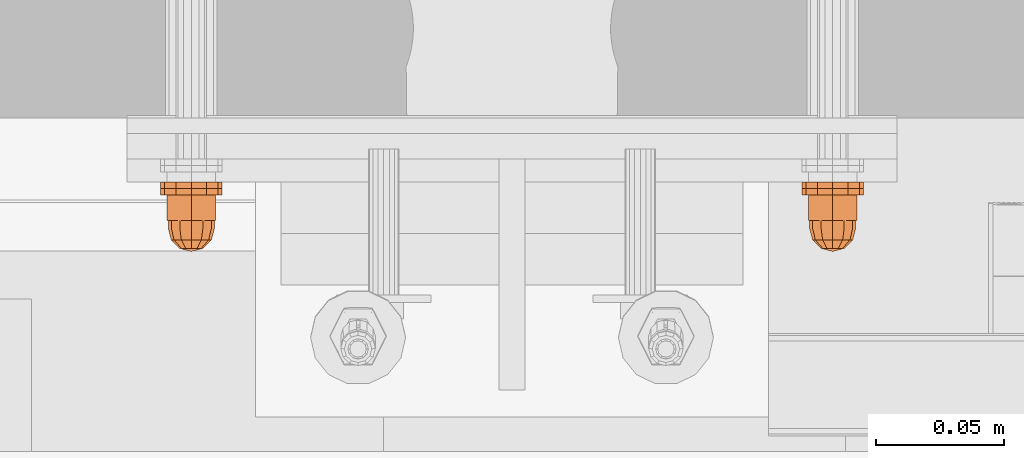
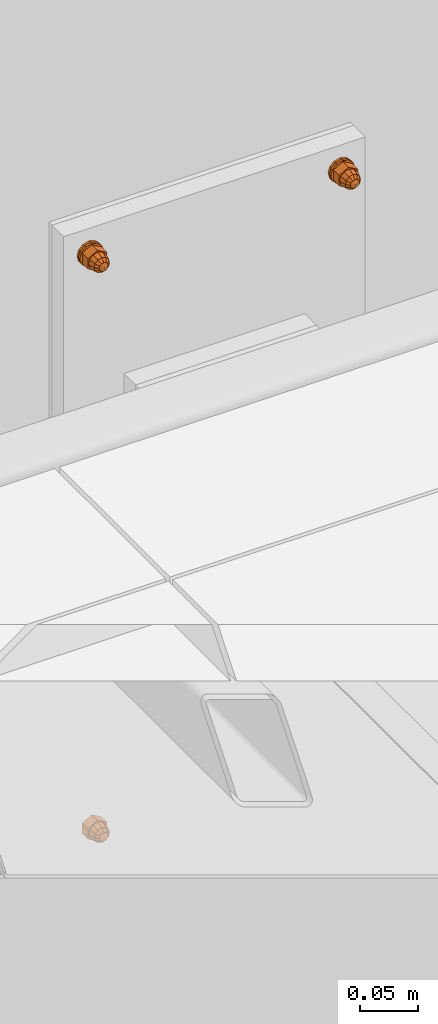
# One storey, part 151 of 162: 7 proxies.
"""IFC2X3 building model written with IfcOpenShell, lengths in millimetres."""

from ifc_helpers import new_model, entity, si_unit, converted_unit, origin_with_axes, place, context, project, spatial, faceted_brep, material, element, save


model = new_model("IFC2X3")

# Units and contexts
model_context = context("Model", 3, precision=1e-09, world=origin_with_axes())
ifc_project = project(units=[si_unit("LENGTHUNIT", "METRE", prefix="MILLI"), si_unit("AREAUNIT", "SQUARE_METRE"), si_unit("VOLUMEUNIT", "CUBIC_METRE"), converted_unit("PLANEANGLEUNIT", "DEGREE", entity("IfcPlaneAngleMeasure", 0.01745329), si_unit("PLANEANGLEUNIT", "RADIAN"), dimensions=[0, 0, 0, 0, 0, 0, 0])], contexts=[model_context])

# Site, building, storey
site_placement = place(None, origin_with_axes())
site = spatial("IfcSite", under=ifc_project, at=site_placement, Name="Hermannstra?e 1a, 60318 Frankfurt", CompositionType="ELEMENT")
building_placement = place(site_placement, origin_with_axes())
building = spatial("IfcBuilding", under=site, at=building_placement, Name="Struktur 1", CompositionType="ELEMENT")
storey_placement = place(building_placement, origin_with_axes())
storey = spatial("IfcBuildingStorey", under=building, at=storey_placement, Name="Default Storey", CompositionType="ELEMENT", Elevation=0.0)

# Proxies
ifc_material_1 = material(Name="Kunststoff")
proxy_1_placement = place(None, origin_with_axes())
element("IfcBuildingElementProxy", 1, at=proxy_1_placement, inside=storey, material=ifc_material_1, ObjectType="-", context=model_context, shape_type="Brep", body=[
    faceted_brep([(5458.701669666, 2708.109373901, 11598.999), (5458.701669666, 2710.609373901, 11598.999), (5460.30936482, 2710.609373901, 11604.999), (5460.30936482, 2708.109373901, 11604.999), (5454.30936482, 2710.609373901, 11594.606695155), (5448.30936482, 2710.609373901, 11592.999), (5442.30936482, 2710.609373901, 11594.606695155), (5437.917059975, 2710.609373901, 11598.999), (5436.30936482, 2710.609373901, 11604.999), (5437.917059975, 2710.609373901, 11610.999), (5442.30936482, 2710.609373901, 11615.391304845), (5448.30936482, 2710.609373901, 11616.999), (5454.30936482, 2710.609373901, 11615.391304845), (5458.701669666, 2710.609373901, 11610.999), (5451.55936482, 2710.609373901, 11599.369834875), (5453.938529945, 2710.609373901, 11601.749), (5454.80936482, 2710.609373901, 11604.999), (5453.938529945, 2710.609373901, 11608.249), (5451.55936482, 2710.609373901, 11610.628165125), (5448.30936482, 2710.609373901, 11611.499), (5445.05936482, 2710.609373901, 11610.628165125), (5442.680199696, 2710.609373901, 11608.249), (5441.80936482, 2710.609373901, 11604.999), (5442.680199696, 2710.609373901, 11601.749), (5445.05936482, 2710.609373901, 11599.369834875), (5448.30936482, 2710.609373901, 11598.499), (5454.80936482, 2708.109373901, 11604.999), (5453.938529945, 2708.109373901, 11601.749), (5454.30936482, 2708.109373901, 11594.606695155), (5458.701669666, 2708.109373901, 11610.999), (5454.30936482, 2708.109373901, 11615.391304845), (5448.30936482, 2708.109373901, 11616.999), (5442.30936482, 2708.109373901, 11615.391304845), (5437.917059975, 2708.109373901, 11610.999), (5436.30936482, 2708.109373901, 11604.999), (5437.917059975, 2708.109373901, 11598.999), (5442.30936482, 2708.109373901, 11594.606695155), (5448.30936482, 2708.109373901, 11592.999), (5451.55936482, 2708.109373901, 11599.369834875), (5448.30936482, 2708.109373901, 11598.499), (5445.05936482, 2708.109373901, 11599.369834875), (5442.680199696, 2708.109373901, 11601.749), (5441.80936482, 2708.109373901, 11604.999), (5442.680199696, 2708.109373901, 11608.249), (5445.05936482, 2708.109373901, 11610.628165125), (5448.30936482, 2708.109373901, 11611.499), (5451.55936482, 2708.109373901, 11610.628165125), (5453.938529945, 2708.109373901, 11608.249)], [[[0, 1, 2, 3]], [[1, 4, 5, 6, 7, 8, 9, 10, 11, 12, 13, 2], [14, 15, 16, 17, 18, 19, 20, 21, 22, 23, 24, 25]], [[26, 16, 15, 27]], [[28, 0, 3, 29, 30, 31, 32, 33, 34, 35, 36, 37], [26, 27, 38, 39, 40, 41, 42, 43, 44, 45, 46, 47]], [[1, 0, 28, 4]], [[16, 26, 47, 17]], [[3, 2, 13, 29]], [[27, 15, 14, 38]], [[4, 28, 37, 5]], [[17, 47, 46, 18]], [[29, 13, 12, 30]], [[38, 14, 25, 39]], [[18, 46, 45, 19]], [[5, 37, 36, 6]], [[39, 25, 24, 40]], [[30, 12, 11, 31]], [[19, 45, 44, 20]], [[6, 36, 35, 7]], [[40, 24, 23, 41]], [[31, 11, 10, 32]], [[20, 44, 43, 21]], [[7, 35, 34, 8]], [[41, 23, 22, 42]], [[32, 10, 9, 33]], [[21, 43, 42, 22]], [[8, 34, 33, 9]]]),
])
ifc_material_2 = material(Name="A4")
proxy_2_placement = place(None, origin_with_axes())
element("IfcBuildingElementProxy", 2, at=proxy_2_placement, inside=storey, material=ifc_material_2, ObjectType="-", context=model_context, shape_type="Brep", body=[
    faceted_brep([(5437.917059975, 2705.609373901, 11598.999), (5437.917059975, 2708.109373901, 11598.999), (5442.30936482, 2708.109373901, 11594.606695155), (5442.30936482, 2705.609373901, 11594.606695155), (5448.30936482, 2705.609373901, 11592.999), (5454.30936482, 2705.609373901, 11594.606695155), (5458.701669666, 2705.609373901, 11598.999), (5460.30936482, 2705.609373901, 11604.999), (5458.701669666, 2705.609373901, 11610.999), (5454.30936482, 2705.609373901, 11615.391304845), (5448.30936482, 2705.609373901, 11616.999), (5442.30936482, 2705.609373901, 11615.391304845), (5437.917059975, 2705.609373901, 11610.999), (5436.30936482, 2705.609373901, 11604.999), (5451.55936482, 2705.609373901, 11599.369834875), (5448.30936482, 2705.609373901, 11598.499), (5445.05936482, 2705.609373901, 11599.369834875), (5442.680199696, 2705.609373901, 11601.749), (5441.80936482, 2705.609373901, 11604.999), (5442.680199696, 2705.609373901, 11608.249), (5445.05936482, 2705.609373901, 11610.628165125), (5448.30936482, 2705.609373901, 11611.499), (5451.55936482, 2705.609373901, 11610.628165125), (5453.938529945, 2705.609373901, 11608.249), (5454.80936482, 2705.609373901, 11604.999), (5453.938529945, 2705.609373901, 11601.749), (5436.30936482, 2708.109373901, 11604.999), (5437.917059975, 2708.109373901, 11610.999), (5442.30936482, 2708.109373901, 11615.391304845), (5448.30936482, 2708.109373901, 11616.999), (5454.30936482, 2708.109373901, 11615.391304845), (5458.701669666, 2708.109373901, 11610.999), (5460.30936482, 2708.109373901, 11604.999), (5458.701669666, 2708.109373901, 11598.999), (5454.30936482, 2708.109373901, 11594.606695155), (5448.30936482, 2708.109373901, 11592.999), (5441.80936482, 2708.109373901, 11604.999), (5442.680199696, 2708.109373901, 11601.749), (5445.05936482, 2708.109373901, 11599.369834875), (5448.30936482, 2708.109373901, 11598.499), (5451.55936482, 2708.109373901, 11599.369834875), (5453.938529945, 2708.109373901, 11601.749), (5454.80936482, 2708.109373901, 11604.999), (5453.938529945, 2708.109373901, 11608.249), (5451.55936482, 2708.109373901, 11610.628165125), (5448.30936482, 2708.109373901, 11611.499), (5445.05936482, 2708.109373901, 11610.628165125), (5442.680199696, 2708.109373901, 11608.249)], [[[0, 1, 2, 3]], [[3, 4, 5, 6, 7, 8, 9, 10, 11, 12, 13, 0], [14, 15, 16, 17, 18, 19, 20, 21, 22, 23, 24, 25]], [[1, 26, 27, 28, 29, 30, 31, 32, 33, 34, 35, 2], [36, 37, 38, 39, 40, 41, 42, 43, 44, 45, 46, 47]], [[37, 17, 16, 38]], [[1, 0, 13, 26]], [[17, 37, 36, 18]], [[38, 16, 15, 39]], [[3, 2, 35, 4]], [[26, 13, 12, 27]], [[18, 36, 47, 19]], [[39, 15, 14, 40]], [[4, 35, 34, 5]], [[27, 12, 11, 28]], [[19, 47, 46, 20]], [[40, 14, 25, 41]], [[5, 34, 33, 6]], [[24, 42, 41, 25]], [[28, 11, 10, 29]], [[20, 46, 45, 21]], [[23, 43, 42, 24]], [[6, 33, 32, 7]], [[44, 22, 21, 45]], [[43, 23, 22, 44]], [[29, 10, 9, 30]], [[7, 32, 31, 8]], [[30, 9, 8, 31]]]),
])
proxy_3_placement = place(None, origin_with_axes())
element("IfcBuildingElementProxy", 3, at=proxy_3_placement, inside=storey, material=ifc_material_2, ObjectType="-", context=model_context, shape_type="Brep", body=[
    faceted_brep([(5454.30936482, 2705.609373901, 11604.999), (5454.30936482, 2695.609373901, 11604.999), (5453.505517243, 2695.609373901, 11607.999), (5453.505517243, 2705.609373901, 11607.999), (5451.30936482, 2695.609373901, 11610.195152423), (5451.30936482, 2705.609373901, 11610.195152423), (5453.505517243, 2705.609373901, 11601.999), (5453.505517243, 2695.609373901, 11601.999), (5457.789234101, 2705.609373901, 11599.525794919), (5448.30936482, 2705.609373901, 11594.052589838), (5438.82949554, 2705.609373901, 11599.525794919), (5438.82949554, 2705.609373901, 11610.472205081), (5448.30936482, 2705.609373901, 11615.945410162), (5457.789234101, 2705.609373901, 11610.472205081), (5451.30936482, 2705.609373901, 11599.802847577), (5448.30936482, 2705.609373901, 11610.999), (5445.30936482, 2705.609373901, 11610.195152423), (5443.113212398, 2705.609373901, 11607.999), (5442.30936482, 2705.609373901, 11604.999), (5443.113212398, 2705.609373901, 11601.999), (5445.30936482, 2705.609373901, 11599.802847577), (5448.30936482, 2705.609373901, 11598.999), (5448.30936482, 2695.609373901, 11594.052589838), (5457.789234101, 2695.609373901, 11599.525794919), (5457.789234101, 2695.609373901, 11610.472205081), (5448.30936482, 2695.609373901, 11615.945410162), (5438.82949554, 2695.609373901, 11610.472205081), (5438.82949554, 2695.609373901, 11599.525794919), (5451.30936482, 2695.609373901, 11599.802847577), (5448.30936482, 2695.609373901, 11598.999), (5445.30936482, 2695.609373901, 11599.802847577), (5443.113212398, 2695.609373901, 11601.999), (5442.30936482, 2695.609373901, 11604.999), (5443.113212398, 2695.609373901, 11607.999), (5445.30936482, 2695.609373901, 11610.195152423), (5448.30936482, 2695.609373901, 11610.999)], [[[0, 1, 2, 3]], [[3, 2, 4, 5]], [[1, 0, 6, 7]], [[8, 9, 10, 11, 12, 13], [14, 6, 0, 3, 5, 15, 16, 17, 18, 19, 20, 21]], [[22, 23, 24, 25, 26, 27], [1, 7, 28, 29, 30, 31, 32, 33, 34, 35, 4, 2]], [[7, 6, 14, 28]], [[24, 23, 8, 13]], [[5, 4, 35, 15]], [[13, 12, 25, 24]], [[28, 14, 21, 29]], [[23, 22, 9, 8]], [[15, 35, 34, 16]], [[12, 11, 26, 25]], [[29, 21, 20, 30]], [[22, 27, 10, 9]], [[16, 34, 33, 17]], [[27, 26, 11, 10]], [[30, 20, 19, 31]], [[17, 33, 32, 18]], [[31, 19, 18, 32]]]),
    faceted_brep([(5448.30936482, 2695.609373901, 11595.999), (5448.30936482, 2692.609373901, 11595.999), (5443.80936482, 2692.609373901, 11597.204771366), (5443.80936482, 2695.609373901, 11597.204771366), (5452.80936482, 2695.609373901, 11597.204771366), (5452.80936482, 2692.609373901, 11597.204771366), (5456.103593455, 2692.609373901, 11609.499), (5452.80936482, 2692.609373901, 11612.793228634), (5448.30936482, 2692.609373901, 11613.999), (5443.80936482, 2692.609373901, 11612.793228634), (5440.515136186, 2692.609373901, 11609.499), (5439.30936482, 2692.609373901, 11604.999), (5440.515136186, 2692.609373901, 11600.499), (5456.103593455, 2692.609373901, 11600.499), (5457.30936482, 2692.609373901, 11604.999), (5440.515136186, 2695.609373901, 11609.499), (5443.80936482, 2695.609373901, 11612.793228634), (5448.30936482, 2695.609373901, 11613.999), (5452.80936482, 2695.609373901, 11612.793228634), (5456.103593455, 2695.609373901, 11609.499), (5457.30936482, 2695.609373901, 11604.999), (5456.103593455, 2695.609373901, 11600.499), (5440.515136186, 2695.609373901, 11600.499), (5439.30936482, 2695.609373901, 11604.999)], [[[0, 1, 2, 3]], [[1, 0, 4, 5]], [[6, 7, 8, 9, 10, 11, 12, 2, 1, 5, 13, 14]], [[15, 16, 17, 18, 19, 20, 21, 4, 0, 3, 22, 23]], [[3, 2, 12, 22]], [[5, 4, 21, 13]], [[22, 12, 11, 23]], [[13, 21, 20, 14]], [[7, 18, 17, 8]], [[19, 6, 14, 20]], [[18, 7, 6, 19]], [[23, 11, 10, 15]], [[8, 17, 16, 9]], [[15, 10, 9, 16]]]),
    faceted_brep([(5456.103593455, 2692.609373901, 11600.499), (5455.05936482, 2688.109373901, 11601.101885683), (5452.206479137, 2688.109373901, 11598.249), (5452.80936482, 2692.609373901, 11597.204771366), (5440.515136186, 2692.609373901, 11609.499), (5443.80936482, 2692.609373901, 11612.793228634), (5448.30936482, 2692.609373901, 11613.999), (5452.80936482, 2692.609373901, 11612.793228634), (5456.103593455, 2692.609373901, 11609.499), (5457.30936482, 2692.609373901, 11604.999), (5448.30936482, 2692.609373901, 11595.999), (5443.80936482, 2692.609373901, 11597.204771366), (5440.515136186, 2692.609373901, 11600.499), (5439.30936482, 2692.609373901, 11604.999), (5448.30936482, 2688.109373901, 11597.204771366), (5456.103593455, 2688.109373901, 11604.999), (5452.80936482, 2684.815145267, 11604.999), (5452.206479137, 2684.815145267, 11602.749), (5444.412250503, 2688.109373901, 11598.249), (5450.55936482, 2684.815145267, 11601.101885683), (5455.05936482, 2688.109373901, 11608.896114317), (5452.206479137, 2684.815145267, 11607.249), (5448.30936482, 2684.815145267, 11600.499), (5448.30936482, 2683.609373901, 11604.999), (5452.206479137, 2688.109373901, 11611.749), (5450.55936482, 2684.815145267, 11608.896114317), (5448.30936482, 2688.109373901, 11612.793228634), (5441.55936482, 2688.109373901, 11601.101885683), (5446.05936482, 2684.815145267, 11601.101885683), (5448.30936482, 2684.815145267, 11609.499), (5444.412250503, 2688.109373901, 11611.749), (5446.05936482, 2684.815145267, 11608.896114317), (5440.515136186, 2688.109373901, 11604.999), (5444.412250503, 2684.815145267, 11602.749), (5441.55936482, 2688.109373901, 11608.896114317), (5444.412250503, 2684.815145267, 11607.249), (5443.80936482, 2684.815145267, 11604.999)], [[[0, 1, 2, 3]], [[4, 5, 6, 7, 8, 9, 0, 3, 10, 11, 12, 13]], [[3, 2, 14, 10]], [[15, 16, 17, 1]], [[1, 0, 9, 15]], [[10, 14, 18, 11]], [[1, 17, 19, 2]], [[16, 15, 20, 21]], [[2, 19, 22, 14]], [[23, 17, 16]], [[24, 25, 21, 20]], [[23, 16, 21]], [[24, 7, 6, 26]], [[20, 8, 7, 24]], [[15, 9, 8, 20]], [[11, 18, 27, 12]], [[14, 22, 28, 18]], [[23, 19, 17]], [[26, 29, 25, 24]], [[23, 21, 25]], [[23, 22, 19]], [[26, 6, 5, 30]], [[29, 26, 30, 31]], [[23, 25, 29]], [[12, 27, 32, 13]], [[18, 28, 33, 27]], [[23, 28, 22]], [[23, 29, 31]], [[23, 33, 28]], [[30, 5, 4, 34]], [[31, 30, 34, 35]], [[23, 31, 35]], [[13, 32, 34, 4]], [[27, 33, 36, 32]], [[23, 36, 33]], [[23, 35, 36]], [[35, 34, 32, 36]]]),
])
proxy_4_placement = place(None, origin_with_axes())
element("IfcBuildingElementProxy", 4, at=proxy_4_placement, inside=storey, material=ifc_material_1, ObjectType="-", context=model_context, shape_type="Brep", body=[
    faceted_brep([(5708.701669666, 2708.109373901, 11598.999), (5708.701669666, 2710.609373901, 11598.999), (5710.30936482, 2710.609373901, 11604.999), (5710.30936482, 2708.109373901, 11604.999), (5704.30936482, 2710.609373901, 11594.606695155), (5698.30936482, 2710.609373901, 11592.999), (5692.30936482, 2710.609373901, 11594.606695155), (5687.917059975, 2710.609373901, 11598.999), (5686.30936482, 2710.609373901, 11604.999), (5687.917059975, 2710.609373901, 11610.999), (5692.30936482, 2710.609373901, 11615.391304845), (5698.30936482, 2710.609373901, 11616.999), (5704.30936482, 2710.609373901, 11615.391304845), (5708.701669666, 2710.609373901, 11610.999), (5701.55936482, 2710.609373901, 11599.369834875), (5703.938529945, 2710.609373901, 11601.749), (5704.80936482, 2710.609373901, 11604.999), (5703.938529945, 2710.609373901, 11608.249), (5701.55936482, 2710.609373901, 11610.628165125), (5698.30936482, 2710.609373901, 11611.499), (5695.05936482, 2710.609373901, 11610.628165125), (5692.680199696, 2710.609373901, 11608.249), (5691.80936482, 2710.609373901, 11604.999), (5692.680199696, 2710.609373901, 11601.749), (5695.05936482, 2710.609373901, 11599.369834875), (5698.30936482, 2710.609373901, 11598.499), (5704.80936482, 2708.109373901, 11604.999), (5703.938529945, 2708.109373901, 11601.749), (5704.30936482, 2708.109373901, 11594.606695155), (5708.701669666, 2708.109373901, 11610.999), (5704.30936482, 2708.109373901, 11615.391304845), (5698.30936482, 2708.109373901, 11616.999), (5692.30936482, 2708.109373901, 11615.391304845), (5687.917059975, 2708.109373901, 11610.999), (5686.30936482, 2708.109373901, 11604.999), (5687.917059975, 2708.109373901, 11598.999), (5692.30936482, 2708.109373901, 11594.606695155), (5698.30936482, 2708.109373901, 11592.999), (5701.55936482, 2708.109373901, 11599.369834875), (5698.30936482, 2708.109373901, 11598.499), (5695.05936482, 2708.109373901, 11599.369834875), (5692.680199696, 2708.109373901, 11601.749), (5691.80936482, 2708.109373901, 11604.999), (5692.680199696, 2708.109373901, 11608.249), (5695.05936482, 2708.109373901, 11610.628165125), (5698.30936482, 2708.109373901, 11611.499), (5701.55936482, 2708.109373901, 11610.628165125), (5703.938529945, 2708.109373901, 11608.249)], [[[0, 1, 2, 3]], [[1, 4, 5, 6, 7, 8, 9, 10, 11, 12, 13, 2], [14, 15, 16, 17, 18, 19, 20, 21, 22, 23, 24, 25]], [[26, 16, 15, 27]], [[28, 0, 3, 29, 30, 31, 32, 33, 34, 35, 36, 37], [26, 27, 38, 39, 40, 41, 42, 43, 44, 45, 46, 47]], [[1, 0, 28, 4]], [[16, 26, 47, 17]], [[3, 2, 13, 29]], [[27, 15, 14, 38]], [[4, 28, 37, 5]], [[17, 47, 46, 18]], [[29, 13, 12, 30]], [[38, 14, 25, 39]], [[18, 46, 45, 19]], [[5, 37, 36, 6]], [[39, 25, 24, 40]], [[30, 12, 11, 31]], [[19, 45, 44, 20]], [[6, 36, 35, 7]], [[40, 24, 23, 41]], [[31, 11, 10, 32]], [[20, 44, 43, 21]], [[7, 35, 34, 8]], [[41, 23, 22, 42]], [[32, 10, 9, 33]], [[21, 43, 42, 22]], [[8, 34, 33, 9]]]),
])
proxy_5_placement = place(None, origin_with_axes())
element("IfcBuildingElementProxy", 5, at=proxy_5_placement, inside=storey, material=ifc_material_2, ObjectType="-", context=model_context, shape_type="Brep", body=[
    faceted_brep([(5687.917059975, 2705.609373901, 11598.999), (5687.917059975, 2708.109373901, 11598.999), (5692.30936482, 2708.109373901, 11594.606695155), (5692.30936482, 2705.609373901, 11594.606695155), (5698.30936482, 2705.609373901, 11592.999), (5704.30936482, 2705.609373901, 11594.606695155), (5708.701669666, 2705.609373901, 11598.999), (5710.30936482, 2705.609373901, 11604.999), (5708.701669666, 2705.609373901, 11610.999), (5704.30936482, 2705.609373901, 11615.391304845), (5698.30936482, 2705.609373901, 11616.999), (5692.30936482, 2705.609373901, 11615.391304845), (5687.917059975, 2705.609373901, 11610.999), (5686.30936482, 2705.609373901, 11604.999), (5701.55936482, 2705.609373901, 11599.369834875), (5698.30936482, 2705.609373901, 11598.499), (5695.05936482, 2705.609373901, 11599.369834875), (5692.680199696, 2705.609373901, 11601.749), (5691.80936482, 2705.609373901, 11604.999), (5692.680199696, 2705.609373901, 11608.249), (5695.05936482, 2705.609373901, 11610.628165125), (5698.30936482, 2705.609373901, 11611.499), (5701.55936482, 2705.609373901, 11610.628165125), (5703.938529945, 2705.609373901, 11608.249), (5704.80936482, 2705.609373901, 11604.999), (5703.938529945, 2705.609373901, 11601.749), (5686.30936482, 2708.109373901, 11604.999), (5687.917059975, 2708.109373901, 11610.999), (5692.30936482, 2708.109373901, 11615.391304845), (5698.30936482, 2708.109373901, 11616.999), (5704.30936482, 2708.109373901, 11615.391304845), (5708.701669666, 2708.109373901, 11610.999), (5710.30936482, 2708.109373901, 11604.999), (5708.701669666, 2708.109373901, 11598.999), (5704.30936482, 2708.109373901, 11594.606695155), (5698.30936482, 2708.109373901, 11592.999), (5691.80936482, 2708.109373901, 11604.999), (5692.680199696, 2708.109373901, 11601.749), (5695.05936482, 2708.109373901, 11599.369834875), (5698.30936482, 2708.109373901, 11598.499), (5701.55936482, 2708.109373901, 11599.369834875), (5703.938529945, 2708.109373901, 11601.749), (5704.80936482, 2708.109373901, 11604.999), (5703.938529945, 2708.109373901, 11608.249), (5701.55936482, 2708.109373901, 11610.628165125), (5698.30936482, 2708.109373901, 11611.499), (5695.05936482, 2708.109373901, 11610.628165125), (5692.680199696, 2708.109373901, 11608.249)], [[[0, 1, 2, 3]], [[3, 4, 5, 6, 7, 8, 9, 10, 11, 12, 13, 0], [14, 15, 16, 17, 18, 19, 20, 21, 22, 23, 24, 25]], [[1, 26, 27, 28, 29, 30, 31, 32, 33, 34, 35, 2], [36, 37, 38, 39, 40, 41, 42, 43, 44, 45, 46, 47]], [[37, 17, 16, 38]], [[1, 0, 13, 26]], [[17, 37, 36, 18]], [[38, 16, 15, 39]], [[3, 2, 35, 4]], [[26, 13, 12, 27]], [[18, 36, 47, 19]], [[39, 15, 14, 40]], [[4, 35, 34, 5]], [[27, 12, 11, 28]], [[19, 47, 46, 20]], [[40, 14, 25, 41]], [[5, 34, 33, 6]], [[24, 42, 41, 25]], [[28, 11, 10, 29]], [[20, 46, 45, 21]], [[23, 43, 42, 24]], [[6, 33, 32, 7]], [[44, 22, 21, 45]], [[43, 23, 22, 44]], [[29, 10, 9, 30]], [[7, 32, 31, 8]], [[30, 9, 8, 31]]]),
])
proxy_6_placement = place(None, origin_with_axes())
element("IfcBuildingElementProxy", 6, at=proxy_6_placement, inside=storey, material=ifc_material_2, ObjectType="-", context=model_context, shape_type="Brep", body=[
    faceted_brep([(5704.30936482, 2705.609373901, 11604.999), (5704.30936482, 2695.609373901, 11604.999), (5703.505517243, 2695.609373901, 11607.999), (5703.505517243, 2705.609373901, 11607.999), (5701.30936482, 2695.609373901, 11610.195152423), (5701.30936482, 2705.609373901, 11610.195152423), (5703.505517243, 2705.609373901, 11601.999), (5703.505517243, 2695.609373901, 11601.999), (5707.789234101, 2705.609373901, 11599.525794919), (5698.30936482, 2705.609373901, 11594.052589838), (5688.82949554, 2705.609373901, 11599.525794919), (5688.82949554, 2705.609373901, 11610.472205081), (5698.30936482, 2705.609373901, 11615.945410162), (5707.789234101, 2705.609373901, 11610.472205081), (5701.30936482, 2705.609373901, 11599.802847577), (5698.30936482, 2705.609373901, 11610.999), (5695.30936482, 2705.609373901, 11610.195152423), (5693.113212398, 2705.609373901, 11607.999), (5692.30936482, 2705.609373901, 11604.999), (5693.113212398, 2705.609373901, 11601.999), (5695.30936482, 2705.609373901, 11599.802847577), (5698.30936482, 2705.609373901, 11598.999), (5698.30936482, 2695.609373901, 11594.052589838), (5707.789234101, 2695.609373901, 11599.525794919), (5707.789234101, 2695.609373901, 11610.472205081), (5698.30936482, 2695.609373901, 11615.945410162), (5688.82949554, 2695.609373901, 11610.472205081), (5688.82949554, 2695.609373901, 11599.525794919), (5701.30936482, 2695.609373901, 11599.802847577), (5698.30936482, 2695.609373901, 11598.999), (5695.30936482, 2695.609373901, 11599.802847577), (5693.113212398, 2695.609373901, 11601.999), (5692.30936482, 2695.609373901, 11604.999), (5693.113212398, 2695.609373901, 11607.999), (5695.30936482, 2695.609373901, 11610.195152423), (5698.30936482, 2695.609373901, 11610.999)], [[[0, 1, 2, 3]], [[3, 2, 4, 5]], [[1, 0, 6, 7]], [[8, 9, 10, 11, 12, 13], [14, 6, 0, 3, 5, 15, 16, 17, 18, 19, 20, 21]], [[22, 23, 24, 25, 26, 27], [1, 7, 28, 29, 30, 31, 32, 33, 34, 35, 4, 2]], [[7, 6, 14, 28]], [[24, 23, 8, 13]], [[5, 4, 35, 15]], [[13, 12, 25, 24]], [[28, 14, 21, 29]], [[23, 22, 9, 8]], [[15, 35, 34, 16]], [[12, 11, 26, 25]], [[29, 21, 20, 30]], [[22, 27, 10, 9]], [[16, 34, 33, 17]], [[27, 26, 11, 10]], [[30, 20, 19, 31]], [[17, 33, 32, 18]], [[31, 19, 18, 32]]]),
    faceted_brep([(5698.30936482, 2695.609373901, 11595.999), (5698.30936482, 2692.609373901, 11595.999), (5693.80936482, 2692.609373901, 11597.204771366), (5693.80936482, 2695.609373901, 11597.204771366), (5702.80936482, 2695.609373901, 11597.204771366), (5702.80936482, 2692.609373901, 11597.204771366), (5706.103593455, 2692.609373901, 11609.499), (5702.80936482, 2692.609373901, 11612.793228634), (5698.30936482, 2692.609373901, 11613.999), (5693.80936482, 2692.609373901, 11612.793228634), (5690.515136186, 2692.609373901, 11609.499), (5689.30936482, 2692.609373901, 11604.999), (5690.515136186, 2692.609373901, 11600.499), (5706.103593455, 2692.609373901, 11600.499), (5707.30936482, 2692.609373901, 11604.999), (5690.515136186, 2695.609373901, 11609.499), (5693.80936482, 2695.609373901, 11612.793228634), (5698.30936482, 2695.609373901, 11613.999), (5702.80936482, 2695.609373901, 11612.793228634), (5706.103593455, 2695.609373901, 11609.499), (5707.30936482, 2695.609373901, 11604.999), (5706.103593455, 2695.609373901, 11600.499), (5690.515136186, 2695.609373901, 11600.499), (5689.30936482, 2695.609373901, 11604.999)], [[[0, 1, 2, 3]], [[1, 0, 4, 5]], [[6, 7, 8, 9, 10, 11, 12, 2, 1, 5, 13, 14]], [[15, 16, 17, 18, 19, 20, 21, 4, 0, 3, 22, 23]], [[3, 2, 12, 22]], [[5, 4, 21, 13]], [[22, 12, 11, 23]], [[13, 21, 20, 14]], [[7, 18, 17, 8]], [[19, 6, 14, 20]], [[18, 7, 6, 19]], [[23, 11, 10, 15]], [[8, 17, 16, 9]], [[15, 10, 9, 16]]]),
    faceted_brep([(5706.103593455, 2692.609373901, 11600.499), (5705.05936482, 2688.109373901, 11601.101885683), (5702.206479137, 2688.109373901, 11598.249), (5702.80936482, 2692.609373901, 11597.204771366), (5690.515136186, 2692.609373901, 11609.499), (5693.80936482, 2692.609373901, 11612.793228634), (5698.30936482, 2692.609373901, 11613.999), (5702.80936482, 2692.609373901, 11612.793228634), (5706.103593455, 2692.609373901, 11609.499), (5707.30936482, 2692.609373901, 11604.999), (5698.30936482, 2692.609373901, 11595.999), (5693.80936482, 2692.609373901, 11597.204771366), (5690.515136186, 2692.609373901, 11600.499), (5689.30936482, 2692.609373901, 11604.999), (5698.30936482, 2688.109373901, 11597.204771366), (5706.103593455, 2688.109373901, 11604.999), (5702.80936482, 2684.815145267, 11604.999), (5702.206479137, 2684.815145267, 11602.749), (5694.412250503, 2688.109373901, 11598.249), (5700.55936482, 2684.815145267, 11601.101885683), (5705.05936482, 2688.109373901, 11608.896114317), (5702.206479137, 2684.815145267, 11607.249), (5698.30936482, 2684.815145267, 11600.499), (5698.30936482, 2683.609373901, 11604.999), (5702.206479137, 2688.109373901, 11611.749), (5700.55936482, 2684.815145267, 11608.896114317), (5698.30936482, 2688.109373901, 11612.793228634), (5691.55936482, 2688.109373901, 11601.101885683), (5696.05936482, 2684.815145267, 11601.101885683), (5698.30936482, 2684.815145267, 11609.499), (5694.412250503, 2688.109373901, 11611.749), (5696.05936482, 2684.815145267, 11608.896114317), (5690.515136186, 2688.109373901, 11604.999), (5694.412250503, 2684.815145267, 11602.749), (5691.55936482, 2688.109373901, 11608.896114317), (5694.412250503, 2684.815145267, 11607.249), (5693.80936482, 2684.815145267, 11604.999)], [[[0, 1, 2, 3]], [[4, 5, 6, 7, 8, 9, 0, 3, 10, 11, 12, 13]], [[3, 2, 14, 10]], [[15, 16, 17, 1]], [[1, 0, 9, 15]], [[10, 14, 18, 11]], [[1, 17, 19, 2]], [[16, 15, 20, 21]], [[2, 19, 22, 14]], [[23, 17, 16]], [[24, 25, 21, 20]], [[23, 16, 21]], [[24, 7, 6, 26]], [[20, 8, 7, 24]], [[15, 9, 8, 20]], [[11, 18, 27, 12]], [[14, 22, 28, 18]], [[23, 19, 17]], [[26, 29, 25, 24]], [[23, 21, 25]], [[23, 22, 19]], [[26, 6, 5, 30]], [[29, 26, 30, 31]], [[23, 25, 29]], [[12, 27, 32, 13]], [[18, 28, 33, 27]], [[23, 28, 22]], [[23, 29, 31]], [[23, 33, 28]], [[30, 5, 4, 34]], [[31, 30, 34, 35]], [[23, 31, 35]], [[13, 32, 34, 4]], [[27, 33, 36, 32]], [[23, 36, 33]], [[23, 35, 36]], [[35, 34, 32, 36]]]),
])
proxy_7_placement = place(None, origin_with_axes())
element("IfcBuildingElementProxy", 7, at=proxy_7_placement, inside=storey, material=ifc_material_2, ObjectType="-", context=model_context, shape_type="Brep", body=[
    faceted_brep([(5454.30936482, 2695.609373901, 11004.999), (5454.30936482, 2705.609373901, 11004.999), (5453.505517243, 2705.609373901, 11001.999), (5453.505517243, 2695.609373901, 11001.999), (5451.30936482, 2705.609373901, 10999.802847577), (5451.30936482, 2695.609373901, 10999.802847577), (5453.505517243, 2695.609373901, 11007.999), (5453.505517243, 2705.609373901, 11007.999), (5457.789234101, 2705.609373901, 11010.472205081), (5457.789234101, 2705.609373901, 10999.525794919), (5448.30936482, 2705.609373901, 10994.052589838), (5438.82949554, 2705.609373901, 10999.525794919), (5438.82949554, 2705.609373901, 11010.472205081), (5448.30936482, 2705.609373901, 11015.945410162), (5451.30936482, 2705.609373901, 11010.195152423), (5448.30936482, 2705.609373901, 11010.999), (5445.30936482, 2705.609373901, 11010.195152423), (5443.113212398, 2705.609373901, 11007.999), (5442.30936482, 2705.609373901, 11004.999), (5443.113212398, 2705.609373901, 11001.999), (5445.30936482, 2705.609373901, 10999.802847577), (5448.30936482, 2705.609373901, 10998.999), (5457.789234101, 2695.609373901, 11010.472205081), (5448.30936482, 2695.609373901, 11015.945410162), (5438.82949554, 2695.609373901, 11010.472205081), (5438.82949554, 2695.609373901, 10999.525794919), (5448.30936482, 2695.609373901, 10994.052589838), (5457.789234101, 2695.609373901, 10999.525794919), (5451.30936482, 2695.609373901, 11010.195152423), (5448.30936482, 2695.609373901, 10998.999), (5448.30936482, 2695.609373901, 11010.999), (5445.30936482, 2695.609373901, 10999.802847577), (5445.30936482, 2695.609373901, 11010.195152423), (5443.113212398, 2695.609373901, 11001.999), (5443.113212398, 2695.609373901, 11007.999), (5442.30936482, 2695.609373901, 11004.999)], [[[0, 1, 2, 3]], [[3, 2, 4, 5]], [[1, 0, 6, 7]], [[8, 9, 10, 11, 12, 13], [7, 14, 15, 16, 17, 18, 19, 20, 21, 4, 2, 1]], [[22, 23, 24, 25, 26, 27]], [[7, 6, 28, 14]], [[22, 27, 9, 8]], [[5, 4, 21, 29]], [[10, 9, 27, 26]], [[14, 28, 30, 15]], [[23, 22, 8, 13]], [[29, 21, 20, 31]], [[11, 10, 26, 25]], [[15, 30, 32, 16]], [[24, 23, 13, 12]], [[31, 20, 19, 33]], [[25, 24, 12, 11]], [[16, 32, 34, 17]], [[33, 19, 18, 35]], [[17, 34, 35, 18]]]),
    faceted_brep([(5448.30936482, 2692.609373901, 11013.999), (5448.30936482, 2695.609373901, 11013.999), (5443.80936482, 2695.609373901, 11012.793228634), (5443.80936482, 2692.609373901, 11012.793228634), (5452.80936482, 2692.609373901, 11012.793228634), (5452.80936482, 2695.609373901, 11012.793228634), (5452.80936482, 2692.609373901, 10997.204771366), (5456.103593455, 2692.609373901, 11000.499), (5457.30936482, 2692.609373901, 11004.999), (5456.103593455, 2692.609373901, 11009.499), (5440.515136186, 2692.609373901, 11009.499), (5439.30936482, 2692.609373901, 11004.999), (5440.515136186, 2692.609373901, 11000.499), (5443.80936482, 2692.609373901, 10997.204771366), (5448.30936482, 2692.609373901, 10995.999), (5443.80936482, 2695.609373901, 10997.204771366), (5440.515136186, 2695.609373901, 11000.499), (5439.30936482, 2695.609373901, 11004.999), (5440.515136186, 2695.609373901, 11009.499), (5456.103593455, 2695.609373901, 11009.499), (5457.30936482, 2695.609373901, 11004.999), (5456.103593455, 2695.609373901, 11000.499), (5452.80936482, 2695.609373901, 10997.204771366), (5448.30936482, 2695.609373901, 10995.999)], [[[0, 1, 2, 3]], [[1, 0, 4, 5]], [[6, 7, 8, 9, 4, 0, 3, 10, 11, 12, 13, 14]], [[15, 16, 17, 18, 2, 1, 5, 19, 20, 21, 22, 23]], [[3, 2, 18, 10]], [[5, 4, 9, 19]], [[10, 18, 17, 11]], [[19, 9, 8, 20]], [[22, 6, 14, 23]], [[7, 21, 20, 8]], [[6, 22, 21, 7]], [[11, 17, 16, 12]], [[23, 14, 13, 15]], [[12, 16, 15, 13]]]),
    faceted_brep([(5455.05936482, 2688.109373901, 11008.896114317), (5456.103593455, 2692.609373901, 11009.499), (5452.80936482, 2692.609373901, 11012.793228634), (5452.206479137, 2688.109373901, 11011.749), (5443.80936482, 2692.609373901, 10997.204771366), (5440.515136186, 2692.609373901, 11000.499), (5439.30936482, 2692.609373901, 11004.999), (5440.515136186, 2692.609373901, 11009.499), (5443.80936482, 2692.609373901, 11012.793228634), (5448.30936482, 2692.609373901, 11013.999), (5457.30936482, 2692.609373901, 11004.999), (5456.103593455, 2692.609373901, 11000.499), (5452.80936482, 2692.609373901, 10997.204771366), (5448.30936482, 2692.609373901, 10995.999), (5448.30936482, 2688.109373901, 11012.793228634), (5452.80936482, 2684.815145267, 11004.999), (5456.103593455, 2688.109373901, 11004.999), (5452.206479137, 2684.815145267, 11007.249), (5444.412250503, 2688.109373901, 11011.749), (5450.55936482, 2684.815145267, 11008.896114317), (5452.206479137, 2684.815145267, 11002.749), (5455.05936482, 2688.109373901, 11001.101885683), (5448.30936482, 2684.815145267, 11009.499), (5448.30936482, 2683.609373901, 11004.999), (5450.55936482, 2684.815145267, 11001.101885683), (5452.206479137, 2688.109373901, 10998.249), (5448.30936482, 2688.109373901, 10997.204771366), (5441.55936482, 2688.109373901, 11008.896114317), (5446.05936482, 2684.815145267, 11008.896114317), (5448.30936482, 2684.815145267, 11000.499), (5444.412250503, 2688.109373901, 10998.249), (5446.05936482, 2684.815145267, 11001.101885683), (5440.515136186, 2688.109373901, 11004.999), (5444.412250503, 2684.815145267, 11007.249), (5441.55936482, 2688.109373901, 11001.101885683), (5444.412250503, 2684.815145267, 11002.749), (5443.80936482, 2684.815145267, 11004.999)], [[[0, 1, 2, 3]], [[4, 5, 6, 7, 8, 9, 2, 1, 10, 11, 12, 13]], [[3, 2, 9, 14]], [[15, 16, 0, 17]], [[1, 0, 16, 10]], [[14, 9, 8, 18]], [[17, 0, 3, 19]], [[16, 15, 20, 21]], [[19, 3, 14, 22]], [[17, 23, 15]], [[24, 25, 21, 20]], [[15, 23, 20]], [[12, 25, 26, 13]], [[11, 21, 25, 12]], [[10, 16, 21, 11]], [[18, 8, 7, 27]], [[22, 14, 18, 28]], [[19, 23, 17]], [[29, 26, 25, 24]], [[20, 23, 24]], [[22, 23, 19]], [[13, 26, 30, 4]], [[26, 29, 31, 30]], [[24, 23, 29]], [[27, 7, 6, 32]], [[28, 18, 27, 33]], [[28, 23, 22]], [[29, 23, 31]], [[33, 23, 28]], [[4, 30, 34, 5]], [[30, 31, 35, 34]], [[31, 23, 35]], [[32, 6, 5, 34]], [[33, 27, 32, 36]], [[36, 23, 33]], [[35, 23, 36]], [[34, 35, 36, 32]]]),
])

save(model, "model.ifc")
